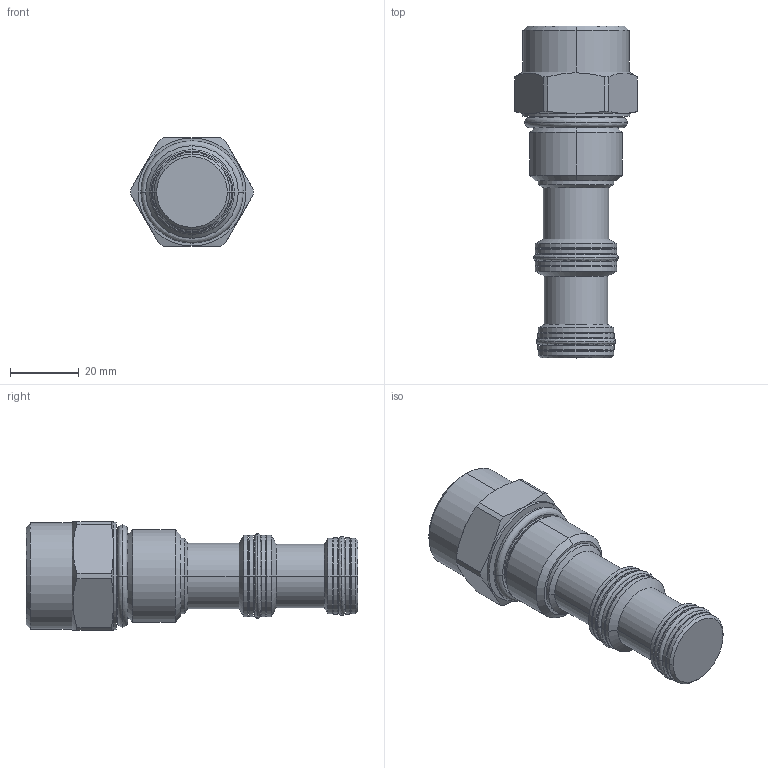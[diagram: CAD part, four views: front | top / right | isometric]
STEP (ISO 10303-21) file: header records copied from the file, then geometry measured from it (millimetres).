
FILE_DESCRIPTION((''),'2;1');
FILE_NAME('5428400_SW0001','2009-01-29T',('JCS'),(''),'PRO/ENGINEER BY PARAMETRIC TECHNOLOGY CORPORATION, 2008010','PRO/ENGINEER BY PARAMETRIC TECHNOLOGY CORPORATION, 2008010','');
FILE_SCHEMA(('CONFIG_CONTROL_DESIGN'));
Length unit declared in the file: inch
Products named in the file (1): 5428400_SW0001
Bounding box: 35.81 x 96.9 x 31.75 mm (x, y, z)
Volume: 48834.7 mm3; surface area: 12063.6 mm2
Topology: 4 solids, 4 shells, 126 faces, 264 edges, 154 vertices
Faces by surface type: cylinder 40, revolution 24, plane 22, cone 20, torus 20
Entity records: 3856 total; most frequent: CARTESIAN_POINT 1076, DIRECTION 610, ORIENTED_EDGE 528, EDGE_CURVE 264, AXIS2_PLACEMENT_3D 260, CIRCLE 158, VERTEX_POINT 154, EDGE_LOOP 140
